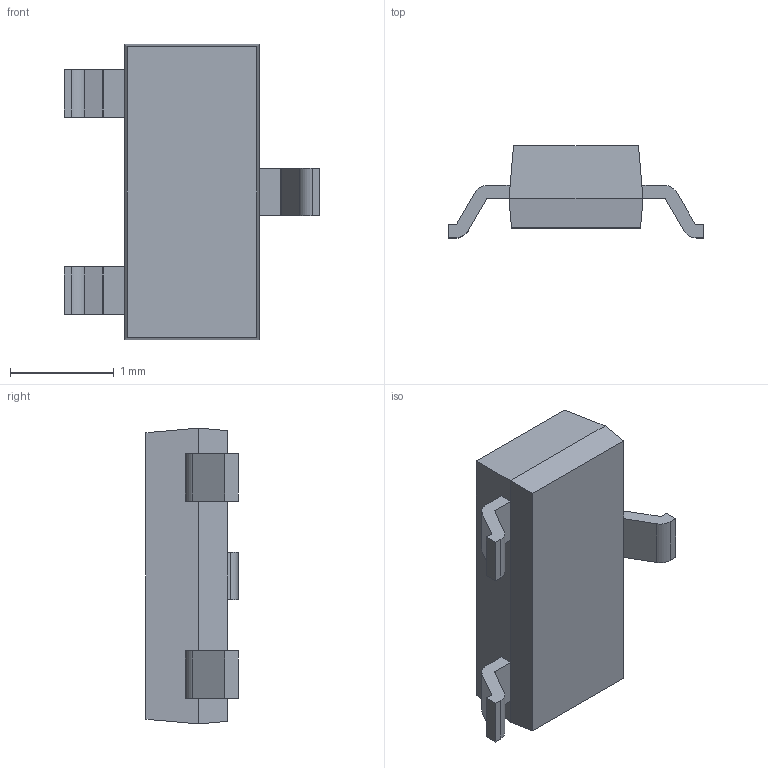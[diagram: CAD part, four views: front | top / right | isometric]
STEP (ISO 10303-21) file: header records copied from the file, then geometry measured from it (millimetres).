
FILE_DESCRIPTION (( 'STEP AP214' ), '1' );
FILE_NAME ('SOT-SOT23-03-1003-2002-BA.STEP', '2024-01-04T04:03:19', ( '' ), ( '' ), 'SwSTEP 2.0', 'SolidWorks 2021', '' );
FILE_SCHEMA (( 'AUTOMOTIVE_DESIGN' ));
Length unit declared in the file: inch
Products named in the file (1): SOT-SOT23-03-1003-2002-BA
Bounding box: 2.46 x 0.89 x 2.86 mm (x, y, z)
Volume: 2.9 mm3; surface area: 16.4 mm2
Topology: 4 solids, 4 shells, 52 faces, 128 edges, 84 vertices
Faces by surface type: plane 40, cylinder 12
Entity records: 1597 total; most frequent: CARTESIAN_POINT 265, DIRECTION 258, ORIENTED_EDGE 256, EDGE_CURVE 128, LINE 104, VECTOR 104, VERTEX_POINT 84, AXIS2_PLACEMENT_3D 77
